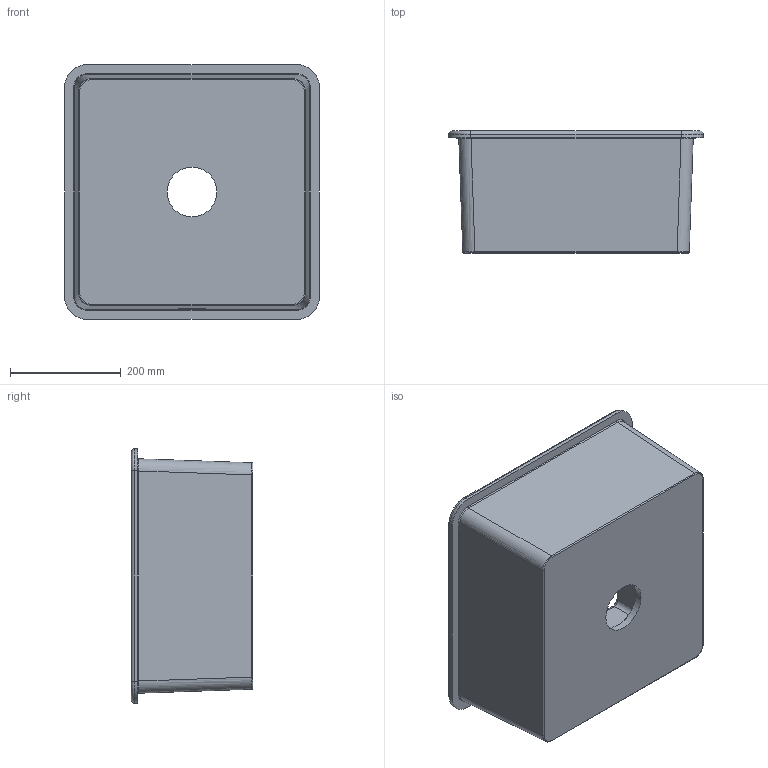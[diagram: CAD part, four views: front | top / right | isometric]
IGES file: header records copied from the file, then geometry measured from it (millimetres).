
Start section: SolidWorks IGES file using NURBS representation for surfaces
Global section: file name: D:\JÚLIO\#1# PRODUTOS\LAVA-LOUÇAS\Valet\7340 - l. louça 46x46 encast\biblioteca 3D\7340_igs1.IGS; native system: SolidWorks 2018; preprocessor: SolidWorks 2018; author: Julio; date: 180115.121342; units: millimetre
Bounding box: 460 x 220 x 460 mm (x, y, z)
Volume: 8539962.4 mm3; surface area: 1028474 mm2
Topology: 1 solids, 1 shells, 83 faces, 461 edges, 573 vertices
Faces by surface type: bspline 83
